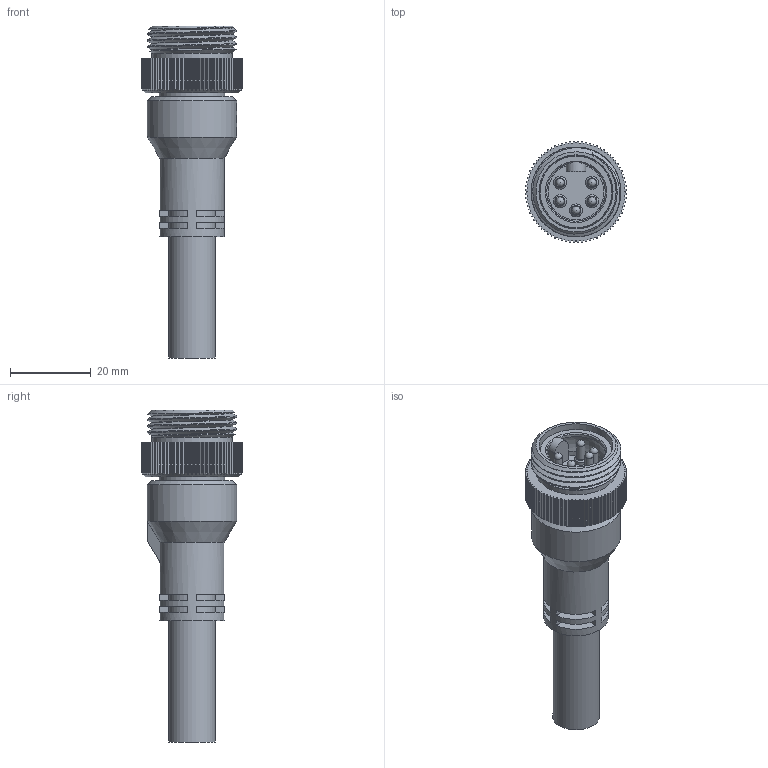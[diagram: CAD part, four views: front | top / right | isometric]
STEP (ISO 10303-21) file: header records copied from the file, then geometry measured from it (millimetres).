
FILE_DESCRIPTION (( 'STEP AP203' ), '1' );
FILE_NAME ('CM03A-J5P.STEP', '2022-04-07T06:32:42', ( '' ), ( '' ), 'SwSTEP 2.0', 'SolidWorks 2018', '' );
FILE_SCHEMA (( 'CONFIG_CONTROL_DESIGN' ));
Length unit declared in the file: millimetre
Products named in the file (1): CM03A-J5P
Bounding box: 24.98 x 24.98 x 82 mm (x, y, z)
Volume: 17613.1 mm3; surface area: 7706.6 mm2
Topology: 1 solids, 1 shells, 593 faces, 1705 edges, 1134 vertices
Faces by surface type: cylinder 354, plane 213, cone 13, bspline 6, sphere 5, torus 2
Full cylindrical faces by diameter (mm): 2.01 x5, 3.2 x5, 11.6 x1, 16 x1, 16.2 x1, 17.7 x2, 18.3 x1, 19.8 x1, 22 x1
Entity records: 21306 total; most frequent: CARTESIAN_POINT 6404, ORIENTED_EDGE 3280, DIRECTION 2875, EDGE_CURVE 1640, VERTEX_POINT 1109, AXIS2_PLACEMENT_3D 1077, VECTOR 721, LINE 721
